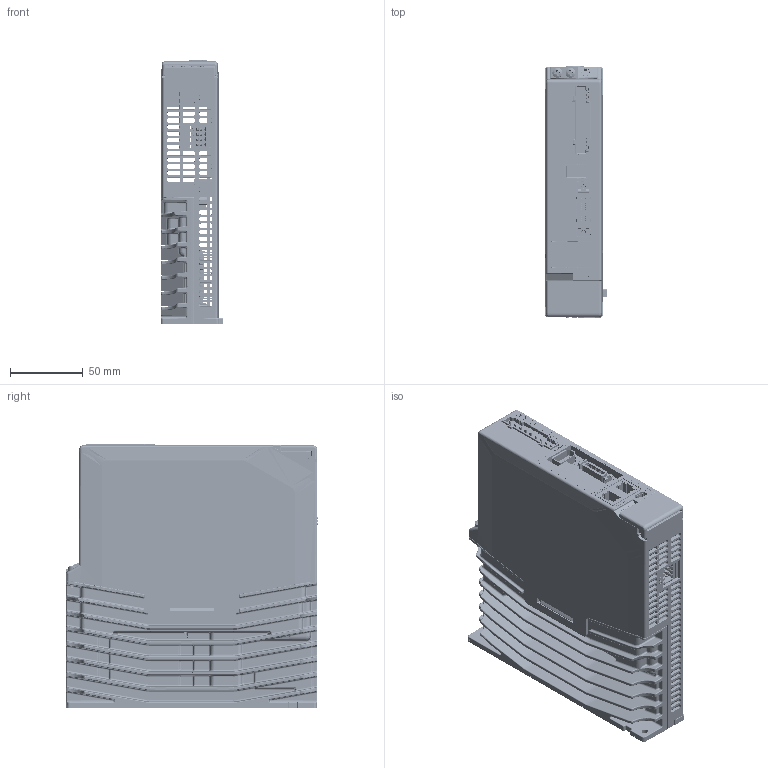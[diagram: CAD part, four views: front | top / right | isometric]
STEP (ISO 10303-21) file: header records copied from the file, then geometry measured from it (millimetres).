
FILE_DESCRIPTION (( 'STEP AP203' ), '1' );
FILE_NAME ('200VAC ,Rated power:50W~400W EtherCAT.STEP', '2024-08-22T12:21:36', ( '' ), ( '' ), 'SwSTEP 2.0', 'SolidWorks 2022', '' );
FILE_SCHEMA (( 'CONFIG_CONTROL_DESIGN' ));
Length unit declared in the file: millimetre
Products named in the file (1): 200VAC ，Rated power：50W~400W EtherCAT
Bounding box: 43 x 172.3 x 181 mm (x, y, z)
Volume: 349534.1 mm3; surface area: 286680.7 mm2
Topology: 28 solids, 99 shells, 8996 faces, 23830 edges, 15274 vertices
Faces by surface type: plane 5547, cylinder 1618, bspline 1331, cone 500
Entity records: 339687 total; most frequent: CARTESIAN_POINT 129261, ORIENTED_EDGE 47480, DIRECTION 37008, EDGE_CURVE 23740, LINE 15934, VECTOR 15934, VERTEX_POINT 15274, AXIS2_PLACEMENT_3D 10537
